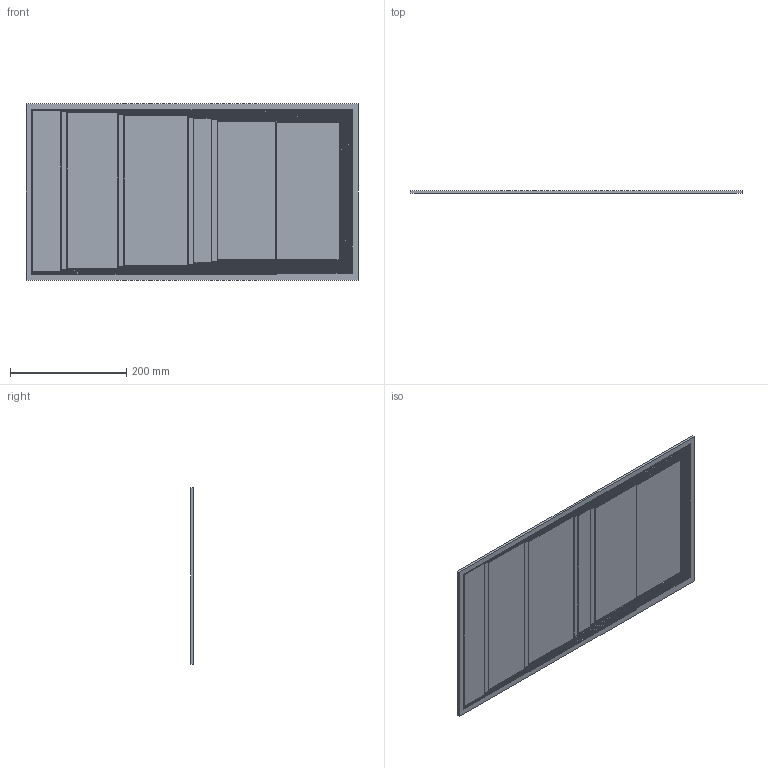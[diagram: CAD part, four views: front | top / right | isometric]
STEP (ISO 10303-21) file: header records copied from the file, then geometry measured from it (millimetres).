
FILE_DESCRIPTION(('STEP AP214'),'1');
FILE_NAME('.step','2025-06-17T06:48:06',(' '),('ANSOFT Corporation'),'Spatial InterOp 3D',' ',' ');
FILE_SCHEMA(('AUTOMOTIVE_DESIGN { 1 0 10303 214 1 1 1 1 }'));
Length unit declared in the file: millimetre
Products named in the file (1): Box69
Bounding box: 570 x 4.5 x 303.5 mm (x, y, z)
Volume: 758071.3 mm3; surface area: 394635.2 mm2
Topology: 1 solids, 1 shells, 141 faces, 384 edges, 256 vertices
Faces by surface type: plane 141
Entity records: 4382 total; most frequent: CARTESIAN_POINT 782, ORIENTED_EDGE 768, DIRECTION 668, EDGE_CURVE 384, LINE 384, VECTOR 384, VERTEX_POINT 256, EDGE_LOOP 152
